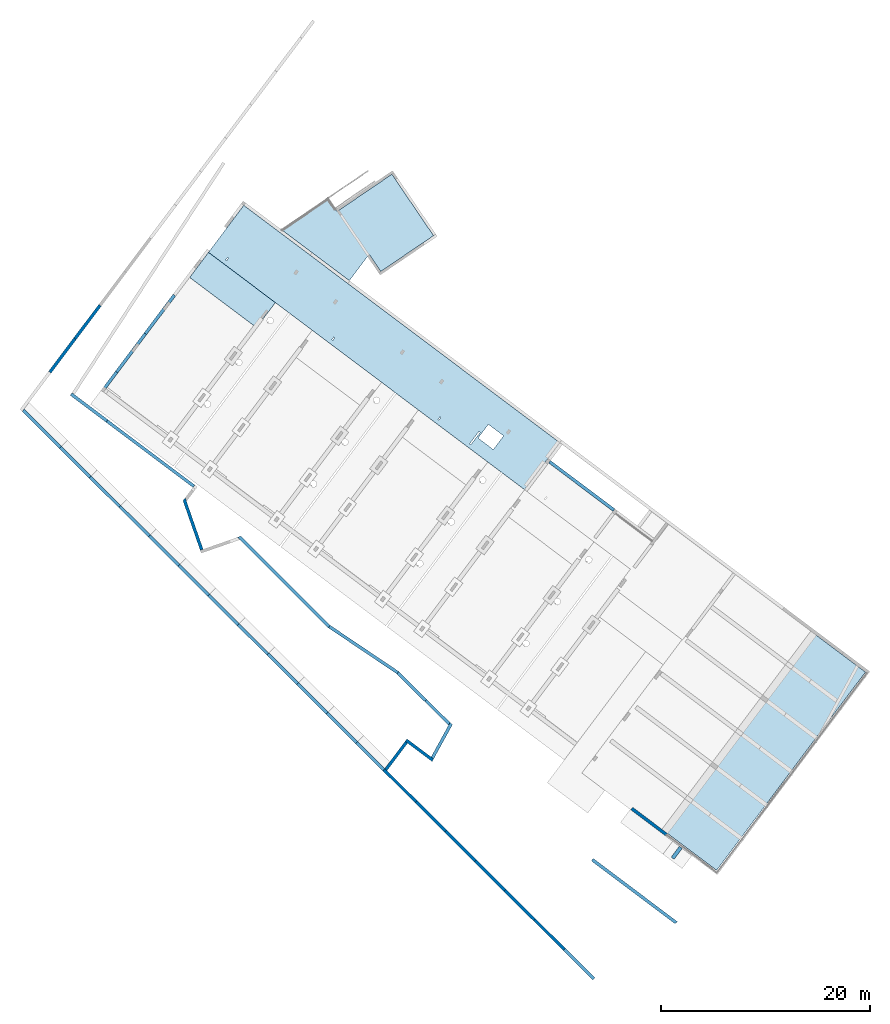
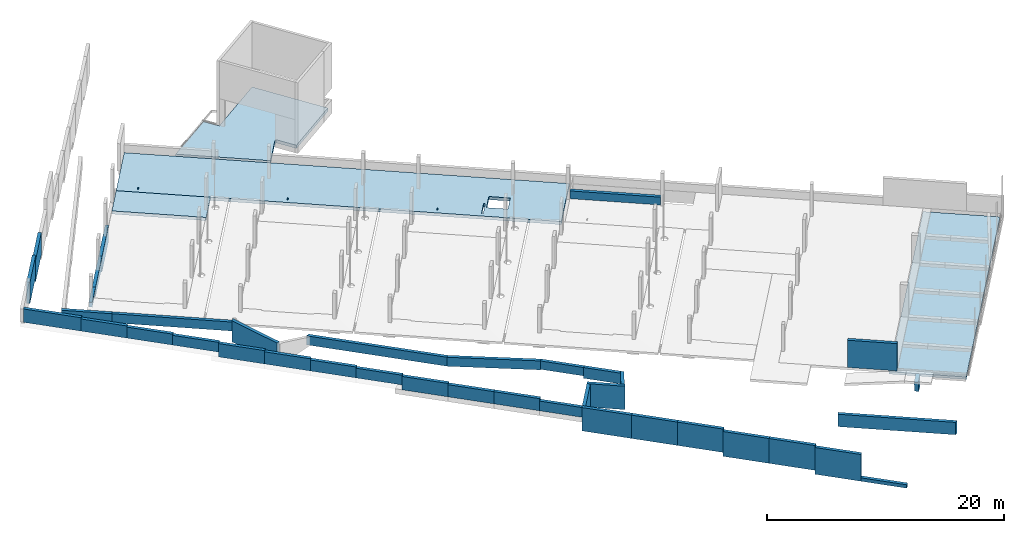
# One storey, part 21 of 24: 38 walls, 4 slabs, 5 openings.
"""IFC2X3 building model written with IfcOpenShell, lengths in metres."""

from ifc_helpers import new_model, entity, si_unit, converted_unit, derived_unit, direction, frame, frame_2d, origin, place, context, subcontext, project, spatial, polyline, rectangle, outline, extrude, clip, halfspace, material, layer, layer_set, layer_usage, type_object, element, save


model = new_model("IFC2X3")

# Units and contexts
model_context = context("Model", 3, precision=1e-05, world=origin(), true_north=direction((6.123031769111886e-17, 1.0)))
body_context = subcontext(model_context, "Body", "Model", "MODEL_VIEW")
ifc_project = project(units=[si_unit("LENGTHUNIT", "METRE"), si_unit("AREAUNIT", "SQUARE_METRE"), si_unit("VOLUMEUNIT", "CUBIC_METRE"), converted_unit("PLANEANGLEUNIT", "DEGREE", entity("IfcRatioMeasure", 0.017453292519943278), si_unit("PLANEANGLEUNIT", "RADIAN"), dimensions=[0, 0, 0, 0, 0, 0, 0]), si_unit("MASSUNIT", "GRAM", prefix="KILO"), derived_unit("MASSDENSITYUNIT", [(si_unit("MASSUNIT", "GRAM", prefix="KILO"), 1), (si_unit("LENGTHUNIT", "METRE"), -3)]), derived_unit("IONCONCENTRATIONUNIT", [(si_unit("MASSUNIT", "GRAM", prefix="KILO"), 1), (si_unit("LENGTHUNIT", "METRE"), -3)]), derived_unit("MOMENTOFINERTIAUNIT", [(si_unit("LENGTHUNIT", "METRE"), 4)]), si_unit("TIMEUNIT", "SECOND"), si_unit("FREQUENCYUNIT", "HERTZ"), si_unit("THERMODYNAMICTEMPERATUREUNIT", "DEGREE_CELSIUS"), derived_unit("THERMALTRANSMITTANCEUNIT", [(si_unit("MASSUNIT", "GRAM", prefix="KILO"), 1), (si_unit("THERMODYNAMICTEMPERATUREUNIT", "KELVIN"), -1), (si_unit("TIMEUNIT", "SECOND"), -3)]), derived_unit("THERMALCONDUCTANCEUNIT", [(si_unit("MASSUNIT", "GRAM", prefix="KILO"), 1), (si_unit("THERMODYNAMICTEMPERATUREUNIT", "KELVIN"), -1), (si_unit("TIMEUNIT", "SECOND"), -3), (si_unit("LENGTHUNIT", "METRE"), 1)]), derived_unit("VOLUMETRICFLOWRATEUNIT", [(si_unit("LENGTHUNIT", "METRE"), 3), (si_unit("TIMEUNIT", "SECOND"), -1)]), derived_unit("MASSFLOWRATEUNIT", [(si_unit("MASSUNIT", "GRAM", prefix="KILO"), 1), (si_unit("TIMEUNIT", "SECOND"), -1)]), derived_unit("ROTATIONALFREQUENCYUNIT", [(si_unit("TIMEUNIT", "SECOND"), -1)]), si_unit("ELECTRICCURRENTUNIT", "AMPERE"), si_unit("ELECTRICVOLTAGEUNIT", "VOLT"), si_unit("POWERUNIT", "WATT"), si_unit("FORCEUNIT", "NEWTON", prefix="KILO"), si_unit("ILLUMINANCEUNIT", "LUX"), si_unit("LUMINOUSFLUXUNIT", "LUMEN"), si_unit("LUMINOUSINTENSITYUNIT", "CANDELA"), derived_unit("USERDEFINED", [(si_unit("MASSUNIT", "GRAM", prefix="KILO"), -1), (si_unit("LENGTHUNIT", "METRE"), -2), (si_unit("TIMEUNIT", "SECOND"), 3), (si_unit("LUMINOUSFLUXUNIT", "LUMEN"), 1)]), derived_unit("USERDEFINED", [(si_unit("MASSUNIT", "GRAM", prefix="KILO"), 1), (si_unit("TIMEUNIT", "SECOND"), -3), (si_unit("LENGTHUNIT", "METRE"), 3), (si_unit("ELECTRICCURRENTUNIT", "AMPERE"), -2)]), derived_unit("SOUNDPOWERUNIT", [(si_unit("MASSUNIT", "GRAM", prefix="KILO"), 1), (si_unit("TIMEUNIT", "SECOND"), -3), (si_unit("LENGTHUNIT", "METRE"), 2)]), derived_unit("SOUNDPRESSUREUNIT", [(si_unit("MASSUNIT", "GRAM", prefix="KILO"), 1), (si_unit("LENGTHUNIT", "METRE"), -1), (si_unit("TIMEUNIT", "SECOND"), -2)]), derived_unit("LINEARVELOCITYUNIT", [(si_unit("LENGTHUNIT", "METRE"), 1), (si_unit("TIMEUNIT", "SECOND"), -1)]), si_unit("PRESSUREUNIT", "PASCAL"), derived_unit("USERDEFINED", [(si_unit("MASSUNIT", "GRAM", prefix="KILO"), 1), (si_unit("LENGTHUNIT", "METRE"), -2), (si_unit("TIMEUNIT", "SECOND"), -2)]), derived_unit("LINEARFORCEUNIT", [(si_unit("MASSUNIT", "GRAM", prefix="KILO"), 1), (si_unit("TIMEUNIT", "SECOND"), -2)]), derived_unit("PLANARFORCEUNIT", [(si_unit("MASSUNIT", "GRAM", prefix="KILO"), 1), (si_unit("LENGTHUNIT", "METRE"), -1), (si_unit("TIMEUNIT", "SECOND"), -2)]), derived_unit("SPECIFICHEATCAPACITYUNIT", [(si_unit("THERMODYNAMICTEMPERATUREUNIT", "KELVIN"), -1), (si_unit("LENGTHUNIT", "METRE"), 2), (si_unit("TIMEUNIT", "SECOND"), -2)]), derived_unit("HEATINGVALUEUNIT", [(si_unit("LENGTHUNIT", "METRE"), 2), (si_unit("TIMEUNIT", "SECOND"), -2)]), derived_unit("VAPORPERMEABILITYUNIT", [(si_unit("LENGTHUNIT", "METRE"), -1), (si_unit("TIMEUNIT", "SECOND"), 1)]), derived_unit("DYNAMICVISCOSITYUNIT", [(si_unit("MASSUNIT", "GRAM", prefix="KILO"), 1), (si_unit("TIMEUNIT", "SECOND"), -1), (si_unit("LENGTHUNIT", "METRE"), -1)]), derived_unit("THERMALEXPANSIONCOEFFICIENTUNIT", [(si_unit("THERMODYNAMICTEMPERATUREUNIT", "KELVIN"), -1)]), derived_unit("MODULUSOFELASTICITYUNIT", [(si_unit("MASSUNIT", "GRAM", prefix="KILO"), 1), (si_unit("LENGTHUNIT", "METRE"), -1), (si_unit("TIMEUNIT", "SECOND"), -2)]), derived_unit("ISOTHERMALMOISTURECAPACITYUNIT", [(si_unit("LENGTHUNIT", "METRE"), 3), (si_unit("MASSUNIT", "GRAM", prefix="KILO"), -1)]), derived_unit("MOISTUREDIFFUSIVITYUNIT", [(si_unit("TIMEUNIT", "SECOND"), -1), (si_unit("LENGTHUNIT", "METRE"), 2)])], contexts=[model_context])

# Site, building, storey
site_placement = place(None, origin())
site = spatial("IfcSite", under=ifc_project, at=site_placement, Name="Default", CompositionType="ELEMENT")
building_placement = place(site_placement, frame((0.0, 0.0, 235.0), z_axis=(0.0, 0.0, 1.0), x_axis=(-0.7996477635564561, 0.6004693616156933, 0.0)))
building = spatial("IfcBuilding", under=site, at=building_placement, CompositionType="ELEMENT")
storey_placement = place(building_placement, origin())
storey = spatial("IfcBuildingStorey", under=building, at=storey_placement, Name="P0- Escola", CompositionType="ELEMENT", Elevation=0.0)

# Slab
ifc_material_1 = material(Name="_Formigó- T1- STR")
ifc_layer_1 = layer(ifc_material_1, 0.32)
ifc_layer_set_1 = layer_set([ifc_layer_1], Name="Suelo:STR- L- Formigó- Llosa- T1- 32 cm")
ifc_layer_usage_1 = layer_usage(ifc_layer_set_1, "AXIS3", "POSITIVE", 0.0)
slab_type_1 = type_object("IfcSlabType", Name="Suelo:STR- L- Formigó- Llosa- T1- 32 cm", PredefinedType="FLOOR", material=ifc_layer_set_1)
slab_1_placement = place(storey_placement, origin())
element("IfcSlab", 1, at=slab_1_placement, inside=storey, type_object=slab_type_1, material=ifc_layer_usage_1, Name="Suelo:STR- L- Formigó- Llosa- T1- 32 cm", ObjectType="Suelo:STR- L- Formigó- Llosa- T1- 32 cm", PredefinedType="FLOOR", context=body_context, shape_type="SweptSolid", body=[
    extrude(outline(polyline([(-1.816952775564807, -4.114046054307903), (6.251396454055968, -4.114046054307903), (4.517386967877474, 0.9469038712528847), (3.0985904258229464, 0.4607421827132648), (1.0401256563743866, 6.468090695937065), (-5.676501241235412, 4.166586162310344), (-3.6991522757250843, -1.6040369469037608), (-1.8979660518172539, -0.9868464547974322), (-1.8169271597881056, -1.2233474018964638), (-1.816952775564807, -4.114046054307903)])), frame((63.86741700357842, -46.45401880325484, -0.2), z_axis=(0.0, 0.0, -1.0), x_axis=(1.0, 0.0, 0.0)), (0.0, 0.0, 1.0), 0.32),
])

# Slab, openings
slab_2_placement = place(storey_placement, frame((36.65996019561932, -42.04019175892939, -0.52)))
slab_2 = element("IfcSlab", 2, at=slab_2_placement, inside=storey, type_object=slab_type_1, material=ifc_layer_usage_1, Name="Suelo:STR- L- Formigó- Llosa- T1- 32 cm", ObjectType="Suelo:STR- L- Formigó- Llosa- T1- 32 cm", PredefinedType="FLOOR", context=body_context, shape_type="SweptSolid", body=[
    extrude(rectangle(XDim=5.625000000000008, YDim=37.785187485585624, at=frame_2d((0.0, 0.0), x_axis=(0.0, -1.0))), frame((18.892593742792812, 2.812500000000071, 0.32), z_axis=(0.0, 0.0, -1.0), x_axis=(-1.0, 0.0, 0.0)), (0.0, 0.0, 1.0), 0.32),
])
opening_1_placement = place(slab_2_placement, origin())
element("IfcOpeningElement", 3, at=opening_1_placement, cuts=slab_2, Name="Suelo:STR- L- Formigó- Llosa- T1- 32 cm", ObjectType="Opening", context=body_context, shape_type="SweptSolid", body=[
    extrude(rectangle(XDim=1.825000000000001, YDim=1.640000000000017, at=frame_2d((0.0, -4.3298697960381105e-15), x_axis=(1.0, 0.0))), frame((5.597687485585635, 3.5270018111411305, 0.32), z_axis=(0.0, 0.0, -1.0), x_axis=(1.0, 0.0, 0.0)), (0.0, 0.0, 1.0), 0.32),
])
opening_2_placement = place(slab_2_placement, origin())
element("IfcOpeningElement", 4, at=opening_2_placement, cuts=slab_2, Name="Suelo:STR- L- Formigó- Llosa- T1- 32 cm", ObjectType="Opening", context=body_context, shape_type="SweptSolid", body=[
    extrude(rectangle(XDim=0.14795927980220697, YDim=1.4737240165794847, at=frame_2d((-4.3298697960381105e-15, 0.0), x_axis=(1.0, 0.0))), frame((6.7489475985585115, 4.535519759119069, 0.32), z_axis=(0.0, 0.0, -1.0), x_axis=(-1.0, 8.103685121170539e-07, 0.0)), (0.0, 0.0, 1.0), 0.31999999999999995),
])
opening_3_placement = place(slab_2_placement, origin())
element("IfcOpeningElement", 5, at=opening_3_placement, cuts=slab_2, Name="Suelo:STR- L- Formigó- Llosa- T1- 32 cm", ObjectType="Opening", context=body_context, shape_type="SweptSolid", body=[
    extrude(rectangle(XDim=0.1000000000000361, YDim=0.3000000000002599, at=frame_2d((-4.333339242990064e-15, -2.1649348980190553e-15), x_axis=(1.0, 0.0))), frame((10.583965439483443, 5.067850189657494, 0.32), z_axis=(0.0, 0.0, -1.0), x_axis=(1.0, -8.103684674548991e-07, 0.0)), (0.0, 0.0, 1.0), 0.31999999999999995),
])
opening_4_placement = place(slab_2_placement, origin())
element("IfcOpeningElement", 6, at=opening_4_placement, cuts=slab_2, Name="Suelo:STR- L- Formigó- Llosa- T1- 32 cm", ObjectType="Opening", context=body_context, shape_type="SweptSolid", body=[
    extrude(rectangle(XDim=0.30000000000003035, YDim=0.10000000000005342, at=frame_2d((0.0, 4.3298697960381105e-15), x_axis=(1.0, 0.0))), frame((23.283965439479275, 5.067839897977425, 0.32), z_axis=(0.0, 0.0, -1.0), x_axis=(8.103684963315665e-07, 1.0, 0.0)), (0.0, 0.0, 1.0), 0.31999999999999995),
])
opening_5_placement = place(slab_2_placement, origin())
element("IfcOpeningElement", 7, at=opening_5_placement, cuts=slab_2, Name="Suelo:STR- L- Formigó- Llosa- T1- 32 cm", ObjectType="Opening", context=body_context, shape_type="SweptSolid", body=[
    extrude(rectangle(XDim=0.2999999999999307, YDim=0.10000000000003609, at=frame_2d((2.1649348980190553e-15, 4.333339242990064e-15), x_axis=(1.0, 0.0))), frame((35.98396543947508, 5.067829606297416, 0.32), z_axis=(0.0, 0.0, -1.0), x_axis=(8.103684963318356e-07, 1.0, 0.0)), (0.0, 0.0, 1.0), 0.31999999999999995),
])

# Slabs
ifc_layer_2 = layer(ifc_material_1, 0.24)
ifc_layer_set_2 = layer_set([ifc_layer_2], Name="Suelo:STR- L- Formigó- Llosa- T1- 24 cm")
ifc_layer_usage_2 = layer_usage(ifc_layer_set_2, "AXIS3", "POSITIVE", 0.0)
slab_type_2 = type_object("IfcSlabType", Name="Suelo:STR- L- Formigó- Llosa- T1- 24 cm", PredefinedType="FLOOR", material=ifc_layer_set_2)
slab_3_placement = place(storey_placement, origin())
element("IfcSlab", 8, at=slab_3_placement, inside=storey, type_object=slab_type_2, material=ifc_layer_usage_2, Name="Suelo:STR- L- Formigó- Llosa- T1- 24 cm", ObjectType="Suelo:STR- L- Formigó- Llosa- T1- 24 cm", PredefinedType="FLOOR", context=body_context, shape_type="SweptSolid", body=[
    extrude(rectangle(XDim=23.700000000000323, YDim=6.539314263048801, at=frame_2d((4.440892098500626e-15, 4.440892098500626e-16), x_axis=(1.0, 0.0))), frame((3.3754905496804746, -30.190191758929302, -0.55), z_axis=(0.0, 0.0, -1.0), x_axis=(0.0, 1.0, 0.0)), (0.0, 0.0, 1.0), 0.24),
])
ifc_material_2 = material(Name="_Formigó- Solera- T1- STR")
ifc_layer_3 = layer(ifc_material_2, 0.32)
ifc_layer_set_3 = layer_set([ifc_layer_3], Name="Suelo:STR- L- Formigó- Solera- T1- 32 cm")
ifc_layer_usage_3 = layer_usage(ifc_layer_set_3, "AXIS3", "POSITIVE", 0.0)
slab_type_3 = type_object("IfcSlabType", Name="Suelo:STR- L- Formigó- Solera- T1- 32 cm", PredefinedType="FLOOR", material=ifc_layer_set_3)
slab_4_placement = place(storey_placement, origin())
element("IfcSlab", 9, at=slab_4_placement, inside=storey, type_object=slab_type_3, material=ifc_layer_usage_3, Name="Suelo:STR- L- Formigó- Solera- T1- 32 cm", ObjectType="Suelo:STR- L- Formigó- Solera- T1- 32 cm", PredefinedType="FLOOR", context=body_context, shape_type="SweptSolid", body=[
    extrude(rectangle(XDim=2.9999999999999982, YDim=7.999999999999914, at=frame_2d((-2.220446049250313e-15, 0.0), x_axis=(1.0, 0.0))), frame((70.4451476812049, -34.91519175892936, -0.2), z_axis=(0.0, 0.0, -1.0), x_axis=(0.0, 1.0, 0.0)), (0.0, 0.0, 1.0), 0.32),
])

# Walls
ifc_layer_4 = layer(ifc_material_1, 0.29999999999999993)
ifc_layer_set_4 = layer_set([ifc_layer_4], Name="Muro básico:STR- M- Formigó- Genèric- T1- 30 cm")
ifc_layer_usage_4 = layer_usage(ifc_layer_set_4, "AXIS2", "NEGATIVE", 0.14999999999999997)
wall_type_1 = type_object("IfcWallType", Name="Muro básico:STR- M- Formigó- Genèric- T1- 30 cm", PredefinedType="STANDARD", material=ifc_layer_set_4)
wall_1_placement = place(storey_placement, frame((5.945147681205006, -18.190191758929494, -0.2)))
element("IfcWallStandardCase", 10, at=wall_1_placement, inside=storey, type_object=wall_type_1, material=ifc_layer_usage_4, Name="Muro básico:STR- M- Formigó- Genèric- T1- 30 cm", ObjectType="Muro básico:STR- M- Formigó- Genèric- T1- 30 cm", context=body_context, shape_type="SweptSolid", body=[
    extrude(rectangle(XDim=4.200000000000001, YDim=0.3000000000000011, at=frame_2d((2.1000000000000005, 0.0), x_axis=(-1.0, 0.0))), origin(), (0.0, 0.0, 1.0), 2.8000000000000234),
])
ifc_layer_usage_5 = layer_usage(ifc_layer_set_4, "AXIS2", "POSITIVE", -0.14999999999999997)
wall_2_placement = place(storey_placement, frame((28.645147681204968, -39.99019175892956, -0.2)))
element("IfcWallStandardCase", 11, at=wall_2_placement, inside=storey, type_object=wall_type_1, material=ifc_layer_usage_5, Name="Muro básico:STR- M- Formigó- Genèric- T1- 30 cm", ObjectType="Muro básico:STR- M- Formigó- Genèric- T1- 30 cm", context=body_context, shape_type="SweptSolid", body=[
    extrude(rectangle(XDim=7.7, YDim=0.3000000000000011, at=frame_2d((3.85, 0.0), x_axis=(-1.0, 0.0))), origin(), (0.0, 0.0, 1.0), 0.8),
])
wall_3_placement = place(storey_placement, frame((74.59514768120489, -19.690191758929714, -0.5699999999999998), z_axis=(0.0, 0.0, 1.0), x_axis=(0.0, -1.0, 0.0)))
element("IfcWallStandardCase", 12, at=wall_3_placement, inside=storey, type_object=wall_type_1, material=ifc_layer_usage_5, Name="Muro básico:STR- M- Formigó- Genèric- T1- 30 cm", ObjectType="Muro básico:STR- M- Formigó- Genèric- T1- 30 cm", context=body_context, shape_type="SweptSolid", body=[
    extrude(rectangle(XDim=2.3000000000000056, YDim=0.3000000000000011, at=frame_2d((1.1500000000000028, 0.0), x_axis=(-1.0, 0.0))), origin(), (0.0, 0.0, 1.0), 0.4699999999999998),
])
wall_4_placement = place(storey_placement, frame((74.59514768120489, -21.99019175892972, -1.1), z_axis=(0.0, 0.0, 1.0), x_axis=(0.0, -1.0, 0.0)))
element("IfcWallStandardCase", 13, at=wall_4_placement, inside=storey, type_object=wall_type_1, material=ifc_layer_usage_5, Name="Muro básico:STR- M- Formigó- Genèric- T1- 30 cm", ObjectType="Muro básico:STR- M- Formigó- Genèric- T1- 30 cm", context=body_context, shape_type="SweptSolid", body=[
    extrude(rectangle(XDim=4.574999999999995, YDim=0.3000000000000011, at=frame_2d((2.2874999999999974, 0.0), x_axis=(-1.0, 0.0))), origin(), (0.0, 0.0, 1.0), 1.0),
])
wall_5_placement = place(storey_placement, frame((74.59514768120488, -26.565191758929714, -1.7), z_axis=(0.0, 0.0, 1.0), x_axis=(0.0, -1.0, 0.0)))
element("IfcWallStandardCase", 14, at=wall_5_placement, inside=storey, type_object=wall_type_1, material=ifc_layer_usage_5, Name="Muro básico:STR- M- Formigó- Genèric- T1- 30 cm", ObjectType="Muro básico:STR- M- Formigó- Genèric- T1- 30 cm", context=body_context, shape_type="SweptSolid", body=[
    extrude(rectangle(XDim=4.625000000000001, YDim=0.3000000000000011, at=frame_2d((2.3125000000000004, 0.0), x_axis=(-1.0, 0.0))), origin(), (0.0, 0.0, 1.0), 1.5999999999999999),
])
wall_6_placement = place(storey_placement, frame((35.84567155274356, -15.149302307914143, -0.44), z_axis=(0.0, 0.0, 1.0), x_axis=(-0.9902804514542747, 0.13908496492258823, 0.0)))
element("IfcWallStandardCase", 15, at=wall_6_placement, inside=storey, type_object=wall_type_1, material=ifc_layer_usage_4, Name="Muro básico:STR- M- Formigó- Genèric- T1- 30 cm", ObjectType="Muro básico:STR- M- Formigó- Genèric- T1- 30 cm", context=body_context, shape_type="SweptSolid", body=[
    extrude(outline(polyline([(3.7844068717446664, -0.1499999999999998), (3.7844068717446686, 0.14999999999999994), (0.0, 0.14999999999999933), (0.02881374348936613, -0.14999999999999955), (3.7844068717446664, -0.1499999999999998)])), origin(), (0.0, 0.0, 1.0), 0.8589999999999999),
])
wall_7_placement = place(storey_placement, frame((43.73227656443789, -14.736344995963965, -0.49999999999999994), z_axis=(0.0, 0.0, 1.0), x_axis=(-0.9986500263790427, -0.05194347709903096, 0.0)))
element("IfcWallStandardCase", 16, at=wall_7_placement, inside=storey, type_object=wall_type_1, material=ifc_layer_usage_4, Name="Muro básico:STR- M- Formigó- Genèric- T1- 30 cm", ObjectType="Muro básico:STR- M- Formigó- Genèric- T1- 30 cm", context=body_context, shape_type="SweptSolid", body=[
    extrude(outline(polyline([(7.897145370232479, -0.15000000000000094), (7.925959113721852, 0.14999999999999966), (0.02881374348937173, 0.14999999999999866), (0.0, -0.1499999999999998), (7.897145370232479, -0.15000000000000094)])), origin(), (0.0, 0.0, 1.0), 0.9189999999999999),
])
wall_8_placement = place(storey_placement, frame((55.84746929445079, -16.44069379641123, -0.49999999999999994), z_axis=(0.0, 0.0, 1.0), x_axis=(-0.9902804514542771, 0.13908496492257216, 0.0)))
element("IfcWallStandardCase", 17, at=wall_8_placement, inside=storey, type_object=wall_type_1, material=ifc_layer_usage_4, Name="Muro básico:STR- M- Formigó- Genèric- T1- 30 cm", ObjectType="Muro básico:STR- M- Formigó- Genèric- T1- 30 cm", context=body_context, shape_type="SweptSolid", body=[
    extrude(outline(polyline([(12.263038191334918, -0.14999999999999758), (12.23422444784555, 0.1500000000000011), (0.1456084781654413, 0.15000000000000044), (0.0, -0.1499999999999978), (0.3334693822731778, -0.1499999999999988), (12.263038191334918, -0.14999999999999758)])), origin(), (0.0, 0.0, 1.0), 0.9189999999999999),
])
wall_9_placement = place(storey_placement, frame((62.215432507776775, -16.193157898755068, -0.5), z_axis=(0.0, 0.0, 1.0), x_axis=(-0.830157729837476, 0.5575286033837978, 0.0)))
element("IfcWallStandardCase", 18, at=wall_9_placement, inside=storey, type_object=wall_type_1, material=ifc_layer_usage_4, Name="Muro básico:STR- M- Formigó- Genèric- T1- 30 cm", ObjectType="Muro básico:STR- M- Formigó- Genèric- T1- 30 cm", context=body_context, shape_type="SweptSolid", body=[
    extrude(outline(polyline([(5.213902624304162, -0.15000000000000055), (5.213902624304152, 0.1499999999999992), (0.3613771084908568, 0.1500000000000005), (0.0, 0.15000000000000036), (0.20147807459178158, -0.1499999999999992), (5.213902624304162, -0.15000000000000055)])), origin(), (0.0, 0.0, 1.0), 2.169),
])
wall_10_placement = place(storey_placement, frame((72.52504299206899, -17.69341024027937, -0.49999999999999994), z_axis=(0.0, 0.0, 1.0), x_axis=(-1.0, 0.0, 0.0)))
element("IfcWallStandardCase", 19, at=wall_10_placement, inside=storey, type_object=wall_type_1, material=ifc_layer_usage_4, Name="Muro básico:STR- M- Formigó- Genèric- T1- 30 cm", ObjectType="Muro básico:STR- M- Formigó- Genèric- T1- 30 cm", context=body_context, shape_type="SweptSolid", body=[
    extrude(rectangle(XDim=10.393239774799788, YDim=0.3000000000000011, at=frame_2d((5.196619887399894, -3.7470027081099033e-16), x_axis=(-1.0, 0.0))), origin(), (0.0, 0.0, 1.0), 0.9189999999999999),
])
wall_11_placement = place(storey_placement, frame((28.293117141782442, -10.593868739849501, -0.68), z_axis=(0.0, 0.0, 1.0), x_axis=(0.1404059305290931, -0.9900940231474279, 0.0)))
element("IfcWallStandardCase", 20, at=wall_11_placement, inside=storey, type_object=wall_type_1, material=ifc_layer_usage_5, Name="Muro básico:STR- M- Formigó- Genèric- T1- 30 cm", ObjectType="Muro básico:STR- M- Formigó- Genèric- T1- 30 cm", context=body_context, shape_type="SweptSolid", body=[
    extrude(outline(polyline([(3.7142681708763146, -0.15000000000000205), (3.8006672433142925, 0.1499999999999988), (3.488473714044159, 0.15000000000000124), (0.04254321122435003, 0.15000000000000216), (0.0, -0.15000000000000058), (3.7142681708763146, -0.15000000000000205)])), origin(), (0.0, 0.0, 1.0), 1.099),
])
wall_12_placement = place(storey_placement, frame((76.82578277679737, -17.693422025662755, -0.8), z_axis=(0.0, 0.0, 1.0), x_axis=(-1.0, 0.0, 0.0)))
element("IfcWallStandardCase", 21, at=wall_12_placement, inside=storey, type_object=wall_type_1, material=ifc_layer_usage_4, Name="Muro básico:STR- M- Formigó- Genèric- T1- 30 cm", ObjectType="Muro básico:STR- M- Formigó- Genèric- T1- 30 cm", context=body_context, shape_type="SweptSolid", body=[
    extrude(outline(polyline([(4.300739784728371, -0.14999999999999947), (4.30073978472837, 0.1499999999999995), (0.30064983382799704, 0.14999999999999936), (0.0, 0.15000000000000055), (0.019756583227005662, -0.1500000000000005), (4.300739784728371, -0.14999999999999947)])), origin(), (0.0, 0.0, 1.0), 1.219),
])
wall_13_placement = place(storey_placement, frame((32.098047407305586, -14.622948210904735, -0.68), z_axis=(0.0, 0.0, 1.0), x_axis=(-0.9902804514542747, 0.13908496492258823, 0.0)))
element("IfcWallStandardCase", 22, at=wall_13_placement, inside=storey, type_object=wall_type_1, material=ifc_layer_usage_4, Name="Muro básico:STR- M- Formigó- Genèric- T1- 30 cm", ObjectType="Muro básico:STR- M- Formigó- Genèric- T1- 30 cm", context=body_context, shape_type="SweptSolid", body=[
    extrude(outline(polyline([(3.2187614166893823, -0.15000000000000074), (3.132362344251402, 0.15000000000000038), (0.0, 0.1499999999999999), (0.0, -0.1499999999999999), (3.2187614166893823, -0.15000000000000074)])), origin(), (0.0, 0.0, 1.0), 1.099),
])
wall_14_placement = place(storey_placement, frame((31.333360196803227, -10.464929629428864, -0.68), z_axis=(0.0, 0.0, 1.0), x_axis=(-1.0, 0.0, 0.0)))
element("IfcWallStandardCase", 23, at=wall_14_placement, inside=storey, type_object=wall_type_1, material=ifc_layer_usage_4, Name="Muro básico:STR- M- Formigó- Genèric- T1- 30 cm", ObjectType="Muro básico:STR- M- Formigó- Genèric- T1- 30 cm", context=body_context, shape_type="SweptSolid", body=[
    extrude(outline(polyline([(3.231300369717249, -0.14999999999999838), (3.188757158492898, 0.15000000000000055), (2.8857556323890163, 0.15000000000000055), (0.0, 0.15000000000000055), (0.0, -0.14999999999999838), (0.3000000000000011, -0.14999999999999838), (3.231300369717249, -0.14999999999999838)])), origin(), (0.0, 0.0, 1.0), 2.4000000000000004),
])
wall_15_placement = place(storey_placement, frame((31.183360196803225, -7.040731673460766, -0.68), z_axis=(0.0, 0.0, 1.0), x_axis=(0.0, -1.0, 0.0)))
element("IfcWallStandardCase", 24, at=wall_15_placement, inside=storey, type_object=wall_type_1, material=ifc_layer_usage_4, Name="Muro básico:STR- M- Formigó- Genèric- T1- 30 cm", ObjectType="Muro básico:STR- M- Formigó- Genèric- T1- 30 cm", context=body_context, shape_type="SweptSolid", body=[
    extrude(outline(polyline([(3.2741979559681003, -0.15000000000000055), (3.2741979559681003, 0.15000000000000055), (0.04213502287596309, 0.15000000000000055), (0.0, -0.15000000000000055), (3.2741979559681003, -0.15000000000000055)])), origin(), (0.0, 0.0, 1.0), 2.4),
])
wall_16_placement = place(storey_placement, frame((3.2638169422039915, -2.9890249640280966, -1.4799999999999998), z_axis=(0.0, 0.0, 1.0), x_axis=(0.9902804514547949, -0.13908496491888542, 0.0)))
element("IfcWallStandardCase", 25, at=wall_16_placement, inside=storey, type_object=wall_type_1, material=ifc_layer_usage_4, Name="Muro básico:STR- M- Formigó- Genèric- T1- 30 cm", ObjectType="Muro básico:STR- M- Formigó- Genèric- T1- 30 cm", context=body_context, shape_type="SweptSolid", body=[
    extrude(rectangle(XDim=3.9999999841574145, YDim=0.29999999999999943, at=frame_2d((1.9999999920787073, 4.163336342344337e-17), x_axis=(-1.0, 0.0))), origin(), (0.0, 0.0, 1.0), 0.35000000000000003),
])
wall_17_placement = place(storey_placement, frame((11.186060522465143, -4.101704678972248, -1.08), z_axis=(0.0, 0.0, 1.0), x_axis=(0.9902804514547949, -0.13908496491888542, 0.0)))
element("IfcWallStandardCase", 26, at=wall_17_placement, inside=storey, type_object=wall_type_1, material=ifc_layer_usage_4, Name="Muro básico:STR- M- Formigó- Genèric- T1- 30 cm", ObjectType="Muro básico:STR- M- Formigó- Genèric- T1- 30 cm", context=body_context, shape_type="SweptSolid", body=[
    extrude(rectangle(XDim=3.999999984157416, YDim=0.29999999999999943, at=frame_2d((1.999999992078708, -1.5265566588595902e-16), x_axis=(-1.0, 0.0))), origin(), (0.0, 0.0, 1.0), 2.55),
])
wall_18_placement = place(storey_placement, frame((19.1083041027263, -5.214384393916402, -0.68), z_axis=(0.0, 0.0, 1.0), x_axis=(0.9902804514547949, -0.13908496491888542, 0.0)))
element("IfcWallStandardCase", 27, at=wall_18_placement, inside=storey, type_object=wall_type_1, material=ifc_layer_usage_4, Name="Muro básico:STR- M- Formigó- Genèric- T1- 30 cm", ObjectType="Muro básico:STR- M- Formigó- Genèric- T1- 30 cm", context=body_context, shape_type="SweptSolid", body=[
    extrude(rectangle(XDim=3.999999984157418, YDim=0.2999999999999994, at=frame_2d((1.999999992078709, -2.914335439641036e-16), x_axis=(-1.0, 0.0))), origin(), (0.0, 0.0, 1.0), 2.4),
])
wall_19_placement = place(storey_placement, frame((27.030547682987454, -6.327064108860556, -0.68), z_axis=(0.0, 0.0, 1.0), x_axis=(0.9902804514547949, -0.13908496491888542, 0.0)))
element("IfcWallStandardCase", 28, at=wall_19_placement, inside=storey, type_object=wall_type_1, material=ifc_layer_usage_4, Name="Muro básico:STR- M- Formigó- Genèric- T1- 30 cm", ObjectType="Muro básico:STR- M- Formigó- Genèric- T1- 30 cm", context=body_context, shape_type="SweptSolid", body=[
    extrude(outline(polyline([(4.366111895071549, -0.14999999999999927), (4.323976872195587, 0.15000000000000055), (0.0, 0.1500000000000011), (0.0, -0.14999999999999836), (4.06316741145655, -0.14999999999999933), (4.366111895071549, -0.14999999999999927)])), origin(), (0.0, 0.0, 1.0), 2.4),
])
wall_20_placement = place(storey_placement, frame((34.952791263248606, -7.439743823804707, 0.7199999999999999), z_axis=(0.0, 0.0, 1.0), x_axis=(0.9902804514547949, -0.13908496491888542, 0.0)))
element("IfcWallStandardCase", 29, at=wall_20_placement, inside=storey, type_object=wall_type_1, material=ifc_layer_usage_4, Name="Muro básico:STR- M- Formigó- Genèric- T1- 30 cm", ObjectType="Muro básico:STR- M- Formigó- Genèric- T1- 30 cm", context=body_context, shape_type="SweptSolid", body=[
    extrude(rectangle(XDim=3.999999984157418, YDim=0.30000000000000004, at=frame_2d((1.999999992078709, 2.636779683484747e-16), x_axis=(-1.0, 0.0))), origin(), (0.0, 0.0, 1.0), 1.25),
])
wall_21_placement = place(storey_placement, frame((42.87503484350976, -8.552423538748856, 0.7199999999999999), z_axis=(0.0, 0.0, 1.0), x_axis=(0.9902804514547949, -0.13908496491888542, 0.0)))
element("IfcWallStandardCase", 30, at=wall_21_placement, inside=storey, type_object=wall_type_1, material=ifc_layer_usage_4, Name="Muro básico:STR- M- Formigó- Genèric- T1- 30 cm", ObjectType="Muro básico:STR- M- Formigó- Genèric- T1- 30 cm", context=body_context, shape_type="SweptSolid", body=[
    extrude(rectangle(XDim=3.999999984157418, YDim=0.30000000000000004, at=frame_2d((1.999999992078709, -2.7755575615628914e-16), x_axis=(-1.0, 0.0))), origin(), (0.0, 0.0, 1.0), 1.3749999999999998),
])
wall_22_placement = place(storey_placement, frame((50.79727842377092, -9.66510325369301, 1.22), z_axis=(0.0, 0.0, 1.0), x_axis=(0.9902804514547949, -0.13908496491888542, 0.0)))
element("IfcWallStandardCase", 31, at=wall_22_placement, inside=storey, type_object=wall_type_1, material=ifc_layer_usage_4, Name="Muro básico:STR- M- Formigó- Genèric- T1- 30 cm", ObjectType="Muro básico:STR- M- Formigó- Genèric- T1- 30 cm", context=body_context, shape_type="SweptSolid", body=[
    extrude(rectangle(XDim=3.999999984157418, YDim=0.30000000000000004, at=frame_2d((1.999999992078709, 7.91033905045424e-16), x_axis=(-1.0, 0.0))), origin(), (0.0, 0.0, 1.0), 1.1249999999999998),
])
wall_23_placement = place(storey_placement, frame((58.71952200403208, -10.777782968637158, 1.22), z_axis=(0.0, 0.0, 1.0), x_axis=(0.9902804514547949, -0.13908496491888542, 0.0)))
element("IfcWallStandardCase", 32, at=wall_23_placement, inside=storey, type_object=wall_type_1, material=ifc_layer_usage_4, Name="Muro básico:STR- M- Formigó- Genèric- T1- 30 cm", ObjectType="Muro básico:STR- M- Formigó- Genèric- T1- 30 cm", context=body_context, shape_type="SweptSolid", body=[
    extrude(rectangle(XDim=3.999999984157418, YDim=0.30000000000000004, at=frame_2d((1.999999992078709, -2.7755575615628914e-16), x_axis=(-1.0, 0.0))), origin(), (0.0, 0.0, 1.0), 1.3750000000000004),
])
wall_24_placement = place(storey_placement, frame((66.64176558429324, -11.890462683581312, 1.72), z_axis=(0.0, 0.0, 1.0), x_axis=(0.9902804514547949, -0.13908496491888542, 0.0)))
element("IfcWallStandardCase", 33, at=wall_24_placement, inside=storey, type_object=wall_type_1, material=ifc_layer_usage_4, Name="Muro básico:STR- M- Formigó- Genèric- T1- 30 cm", ObjectType="Muro básico:STR- M- Formigó- Genèric- T1- 30 cm", context=body_context, shape_type="SweptSolid", body=[
    extrude(rectangle(XDim=3.999999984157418, YDim=0.30000000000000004, at=frame_2d((1.999999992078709, -2.7755575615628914e-16), x_axis=(-1.0, 0.0))), origin(), (0.0, 0.0, 1.0), 1.127),
])
wall_25_placement = place(storey_placement, frame((74.5640091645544, -13.00314239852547, 1.72), z_axis=(0.0, 0.0, 1.0), x_axis=(0.9902804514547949, -0.13908496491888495, 0.0)))
element("IfcWallStandardCase", 34, at=wall_25_placement, inside=storey, type_object=wall_type_1, material=ifc_layer_usage_4, Name="Muro básico:STR- M- Formigó- Genèric- T1- 30 cm", ObjectType="Muro básico:STR- M- Formigó- Genèric- T1- 30 cm", context=body_context, shape_type="SweptSolid", body=[
    extrude(outline(polyline([(5.050867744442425, -0.15000000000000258), (5.008732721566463, 0.14999999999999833), (0.0, 0.15000000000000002), (0.0, -0.15000000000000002), (5.050867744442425, -0.15000000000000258)])), origin(), (0.0, 0.0, 1.0), 1.3749999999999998),
])
wall_26_placement = place(storey_placement, frame((7.224938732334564, -3.5453648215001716, -1.4799999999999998), z_axis=(0.0, 0.0, 1.0), x_axis=(0.9902804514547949, -0.13908496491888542, 0.0)))
element("IfcWallStandardCase", 35, at=wall_26_placement, inside=storey, type_object=wall_type_1, material=ifc_layer_usage_4, Name="Muro básico:STR- M- Formigó- Genèric- T1- 30 cm", ObjectType="Muro básico:STR- M- Formigó- Genèric- T1- 30 cm", context=body_context, shape_type="SweptSolid", body=[
    extrude(rectangle(XDim=3.999999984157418, YDim=0.2999999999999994, at=frame_2d((1.999999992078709, 2.498001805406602e-16), x_axis=(-1.0, 0.0))), origin(), (0.0, 0.0, 1.0), 2.7439999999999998),
])
wall_27_placement = place(storey_placement, frame((15.14718231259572, -4.658044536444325, -1.08), z_axis=(0.0, 0.0, 1.0), x_axis=(0.9902804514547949, -0.13908496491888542, 0.0)))
element("IfcWallStandardCase", 36, at=wall_27_placement, inside=storey, type_object=wall_type_1, material=ifc_layer_usage_4, Name="Muro básico:STR- M- Formigó- Genèric- T1- 30 cm", ObjectType="Muro básico:STR- M- Formigó- Genèric- T1- 30 cm", context=body_context, shape_type="SweptSolid", body=[
    extrude(rectangle(XDim=3.999999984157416, YDim=0.2999999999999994, at=frame_2d((1.999999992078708, 1.1102230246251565e-16), x_axis=(-1.0, 0.0))), origin(), (0.0, 0.0, 1.0), 2.55),
])
wall_28_placement = place(storey_placement, frame((23.06942589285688, -5.770724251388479, -0.68), z_axis=(0.0, 0.0, 1.0), x_axis=(0.9902804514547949, -0.13908496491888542, 0.0)))
element("IfcWallStandardCase", 37, at=wall_28_placement, inside=storey, type_object=wall_type_1, material=ifc_layer_usage_4, Name="Muro básico:STR- M- Formigó- Genèric- T1- 30 cm", ObjectType="Muro básico:STR- M- Formigó- Genèric- T1- 30 cm", context=body_context, shape_type="SweptSolid", body=[
    extrude(rectangle(XDim=3.9999999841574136, YDim=0.30000000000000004, at=frame_2d((1.9999999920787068, -4.163336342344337e-17), x_axis=(-1.0, 0.0))), origin(), (0.0, 0.0, 1.0), 2.4),
])
wall_29_placement = place(storey_placement, frame((31.31249745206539, -6.928464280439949, 0.7199999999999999), z_axis=(0.0, 0.0, 1.0), x_axis=(0.9902804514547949, -0.13908496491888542, 0.0)))
element("IfcWallStandardCase", 38, at=wall_29_placement, inside=storey, type_object=wall_type_1, material=ifc_layer_usage_4, Name="Muro básico:STR- M- Formigó- Genèric- T1- 30 cm", ObjectType="Muro básico:STR- M- Formigó- Genèric- T1- 30 cm", context=body_context, shape_type="SweptSolid", body=[
    extrude(outline(polyline([(3.676023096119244, -0.14999999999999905), (3.6760230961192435, 0.15000000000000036), (0.0, 0.15000000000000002), (0.0421350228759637, -0.1499999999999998), (3.676023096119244, -0.14999999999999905)])), origin(), (0.0, 0.0, 1.0), 1.0),
])
wall_30_placement = place(storey_placement, frame((38.91391305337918, -7.996083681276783, 0.7199999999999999), z_axis=(0.0, 0.0, 1.0), x_axis=(0.9902804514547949, -0.13908496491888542, 0.0)))
element("IfcWallStandardCase", 39, at=wall_30_placement, inside=storey, type_object=wall_type_1, material=ifc_layer_usage_4, Name="Muro básico:STR- M- Formigó- Genèric- T1- 30 cm", ObjectType="Muro básico:STR- M- Formigó- Genèric- T1- 30 cm", context=body_context, shape_type="SweptSolid", body=[
    extrude(rectangle(XDim=3.9999999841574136, YDim=0.30000000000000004, at=frame_2d((1.9999999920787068, -4.163336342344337e-17), x_axis=(-1.0, 0.0))), origin(), (0.0, 0.0, 1.0), 1.25),
])
wall_31_placement = place(storey_placement, frame((46.836156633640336, -9.108763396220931, 1.22), z_axis=(0.0, 0.0, 1.0), x_axis=(0.9902804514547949, -0.13908496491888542, 0.0)))
element("IfcWallStandardCase", 40, at=wall_31_placement, inside=storey, type_object=wall_type_1, material=ifc_layer_usage_4, Name="Muro básico:STR- M- Formigó- Genèric- T1- 30 cm", ObjectType="Muro básico:STR- M- Formigó- Genèric- T1- 30 cm", context=body_context, shape_type="SweptSolid", body=[
    extrude(rectangle(XDim=3.999999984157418, YDim=0.30000000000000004, at=frame_2d((1.999999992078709, -2.7755575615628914e-16), x_axis=(-1.0, 0.0))), origin(), (0.0, 0.0, 1.0), 1.0),
])
wall_32_placement = place(storey_placement, frame((54.7584002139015, -10.221443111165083, 1.22), z_axis=(0.0, 0.0, 1.0), x_axis=(0.9902804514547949, -0.13908496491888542, 0.0)))
element("IfcWallStandardCase", 41, at=wall_32_placement, inside=storey, type_object=wall_type_1, material=ifc_layer_usage_4, Name="Muro básico:STR- M- Formigó- Genèric- T1- 30 cm", ObjectType="Muro básico:STR- M- Formigó- Genèric- T1- 30 cm", context=body_context, shape_type="SweptSolid", body=[
    extrude(rectangle(XDim=3.999999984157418, YDim=0.30000000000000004, at=frame_2d((1.999999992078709, -2.7755575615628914e-16), x_axis=(-1.0, 0.0))), origin(), (0.0, 0.0, 1.0), 1.25),
])
wall_33_placement = place(storey_placement, frame((62.68064379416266, -11.334122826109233, 1.72), z_axis=(0.0, 0.0, 1.0), x_axis=(0.9902804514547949, -0.13908496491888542, 0.0)))
element("IfcWallStandardCase", 42, at=wall_33_placement, inside=storey, type_object=wall_type_1, material=ifc_layer_usage_4, Name="Muro básico:STR- M- Formigó- Genèric- T1- 30 cm", ObjectType="Muro básico:STR- M- Formigó- Genèric- T1- 30 cm", context=body_context, shape_type="SweptSolid", body=[
    extrude(rectangle(XDim=3.999999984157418, YDim=0.30000000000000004, at=frame_2d((1.999999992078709, -2.7755575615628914e-16), x_axis=(-1.0, 0.0))), origin(), (0.0, 0.0, 1.0), 1.0),
])
wall_34_placement = place(storey_placement, frame((70.60288737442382, -12.44680254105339, 1.72), z_axis=(0.0, 0.0, 1.0), x_axis=(0.9902804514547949, -0.13908496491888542, 0.0)))
element("IfcWallStandardCase", 43, at=wall_34_placement, inside=storey, type_object=wall_type_1, material=ifc_layer_usage_4, Name="Muro básico:STR- M- Formigó- Genèric- T1- 30 cm", ObjectType="Muro básico:STR- M- Formigó- Genèric- T1- 30 cm", context=body_context, shape_type="SweptSolid", body=[
    extrude(rectangle(XDim=3.999999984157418, YDim=0.30000000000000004, at=frame_2d((1.999999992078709, -2.7755575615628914e-16), x_axis=(-1.0, 0.0))), origin(), (0.0, 0.0, 1.0), 1.25),
])
wall_35_placement = place(storey_placement, frame((0.12740939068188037, -12.015191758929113, -2.0)))
element("IfcWallStandardCase", 44, at=wall_35_placement, inside=storey, type_object=wall_type_1, material=ifc_layer_usage_4, Name="Muro básico:STR- M- Formigó- Genèric- T1- 30 cm", ObjectType="Muro básico:STR- M- Formigó- Genèric- T1- 30 cm", context=body_context, shape_type="SweptSolid", body=[
    extrude(outline(polyline([(10.097738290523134, -0.1499999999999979), (10.097738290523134, 0.15000000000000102), (0.115999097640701, 0.15000000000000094), (0.0, -0.14999999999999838), (10.097738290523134, -0.1499999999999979)])), origin(), (0.0, 0.0, 1.0), 1.2699999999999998),
])
wall_36_placement = place(storey_placement, frame((79.69492201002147, -18.14728884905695, 0.4499999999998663), z_axis=(0.0, 0.0, 1.0), x_axis=(0.0, -1.0, 0.0)))
element("IfcWallStandardCase", 45, at=wall_36_placement, inside=storey, type_object=wall_type_1, material=ifc_layer_usage_4, Name="Muro básico:STR- M- Formigó- Genèric- T1- 30 cm", ObjectType="Muro básico:STR- M- Formigó- Genèric- T1- 30 cm", context=body_context, shape_type="Clipping", body=[
    clip(extrude(rectangle(XDim=3.9999999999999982, YDim=0.3000000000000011, at=frame_2d((1.9999999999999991, 0.0), x_axis=(-1.0, 0.0))), origin(), (0.0, 0.0, 1.0), 2.1900000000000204), halfspace(frame((4.0, -0.15000000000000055, 0.0), z_axis=(0.0, 0.0, -1.0), x_axis=(0.0, 1.0, 0.0)), False)),
])
wall_37_placement = place(storey_placement, frame((79.69492201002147, -22.14728884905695, -0.050000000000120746), z_axis=(0.0, 0.0, 1.0), x_axis=(0.0, -1.0, 0.0)))
element("IfcWallStandardCase", 46, at=wall_37_placement, inside=storey, type_object=wall_type_1, material=ifc_layer_usage_4, Name="Muro básico:STR- M- Formigó- Genèric- T1- 30 cm", ObjectType="Muro básico:STR- M- Formigó- Genèric- T1- 30 cm", context=body_context, shape_type="SweptSolid", body=[
    extrude(rectangle(XDim=4.000000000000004, YDim=0.3000000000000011, at=frame_2d((2.000000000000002, 0.0), x_axis=(-1.0, 0.0))), origin(), (0.0, 0.0, 1.0), 2.2609999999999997),
])
ifc_layer_5 = layer(ifc_material_1, 0.35)
ifc_layer_set_5 = layer_set([ifc_layer_5], Name="Muro básico:STR- M- Formigó- Genèric- T1- 35 cm")
ifc_layer_usage_6 = layer_usage(ifc_layer_set_5, "AXIS2", "NEGATIVE", 0.175)
wall_type_2 = type_object("IfcWallType", Name="Muro básico:STR- M- Formigó- Genèric- T1- 35 cm", PredefinedType="STANDARD", material=ifc_layer_set_5)
wall_38_placement = place(storey_placement, frame((4.167333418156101, -18.040189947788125, -1.5951789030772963), z_axis=(0.0, 0.0, 1.0), x_axis=(0.0, 1.0, 0.0)))
element("IfcWallStandardCase", 47, at=wall_38_placement, inside=storey, type_object=wall_type_2, material=ifc_layer_usage_6, Name="Muro básico:STR- M- Formigó- Genèric- T1- 35 cm", ObjectType="Muro básico:STR- M- Formigó- Genèric- T1- 35 cm", context=body_context, shape_type="Clipping", body=[
    clip(extrude(rectangle(XDim=1.299998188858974, YDim=0.3499999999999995, at=frame_2d((0.649999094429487, 5.551115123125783e-17), x_axis=(-1.0, 0.0))), origin(), (0.0, 0.0, 1.0), 1.2571789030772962), halfspace(frame((1.2999981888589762, -0.1750000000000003, 1.2571789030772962), z_axis=(0.9292072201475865, 0.0, -0.3695591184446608), x_axis=(0.0, 1.0, 0.0)), False)),
])

save(model, "model.ifc")
